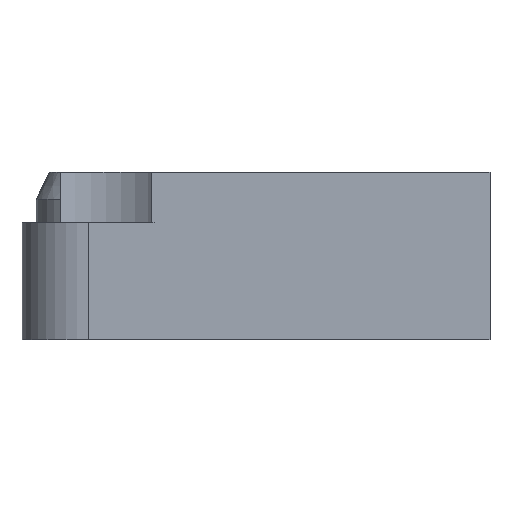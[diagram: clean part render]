
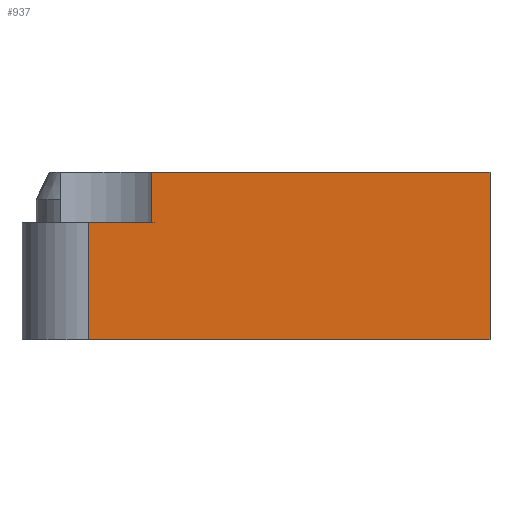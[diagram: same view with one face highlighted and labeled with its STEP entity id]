
A CAD part, front view. The second image highlights one B-rep face of the part: STEP entity #937.
In plain terms, the highlighted planar face has unit normal (0, -1, 0).
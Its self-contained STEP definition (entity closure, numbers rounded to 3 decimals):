
#303=CARTESIAN_POINT('',(38.875,0.063,35.0));
#304=VERTEX_POINT('',#303);
#312=CARTESIAN_POINT('',(38.875,0.063,50.0));
#313=VERTEX_POINT('',#312);
#314=CARTESIAN_POINT('',(38.875,0.063,50.0));
#315=DIRECTION('',(0.0,0.0,-1.0));
#316=VECTOR('',#315,15.0);
#317=LINE('',#314,#316);
#318=EDGE_CURVE('',#313,#304,#317,.T.);
#379=CARTESIAN_POINT('',(20.,0.063,35.0));
#380=VERTEX_POINT('',#379);
#388=CARTESIAN_POINT('',(38.875,0.063,35.0));
#389=DIRECTION('',(-1.0,0.0,0.0));
#390=VECTOR('',#389,18.875);
#391=LINE('',#388,#390);
#392=EDGE_CURVE('',#304,#380,#391,.T.);
#491=CARTESIAN_POINT('',(140.0,0.063,50.0));
#492=VERTEX_POINT('',#491);
#493=CARTESIAN_POINT('',(140.0,0.063,50.0));
#494=DIRECTION('',(-1.0,0.0,0.0));
#495=VECTOR('',#494,101.125);
#496=LINE('',#493,#495);
#497=EDGE_CURVE('',#492,#313,#496,.T.);
#802=CARTESIAN_POINT('',(140.0,0.063,0.0));
#803=VERTEX_POINT('',#802);
#804=CARTESIAN_POINT('',(140.0,0.063,0.0));
#805=DIRECTION('',(0.0,0.0,1.0));
#806=VECTOR('',#805,50.0);
#807=LINE('',#804,#806);
#808=EDGE_CURVE('',#803,#492,#807,.T.);
#901=CARTESIAN_POINT('',(20.0,0.063,0.0));
#902=VERTEX_POINT('',#901);
#910=CARTESIAN_POINT('',(20.,0.063,0.0));
#911=DIRECTION('',(0.0,0.0,1.0));
#912=VECTOR('',#911,35.0);
#913=LINE('',#910,#912);
#914=EDGE_CURVE('',#902,#380,#913,.T.);
#919=CARTESIAN_POINT('',(140.0,0.063,0.0));
#920=DIRECTION('',(0.0,-1.0,0.0));
#921=DIRECTION('',(0.0,0.0,-1.0));
#922=AXIS2_PLACEMENT_3D('',#919,#920,#921);
#923=PLANE('',#922);
#924=ORIENTED_EDGE('',*,*,#392,.T.);
#925=ORIENTED_EDGE('',*,*,#914,.F.);
#926=CARTESIAN_POINT('',(140.0,0.063,0.0));
#927=DIRECTION('',(-1.0,0.0,0.0));
#928=VECTOR('',#927,120.0);
#929=LINE('',#926,#928);
#930=EDGE_CURVE('',#803,#902,#929,.T.);
#931=ORIENTED_EDGE('',*,*,#930,.F.);
#932=ORIENTED_EDGE('',*,*,#808,.T.);
#933=ORIENTED_EDGE('',*,*,#497,.T.);
#934=ORIENTED_EDGE('',*,*,#318,.T.);
#935=EDGE_LOOP('',(#924,#925,#931,#932,#933,#934));
#936=FACE_OUTER_BOUND('',#935,.T.);
#937=ADVANCED_FACE('',(#936),#923,.T.);
